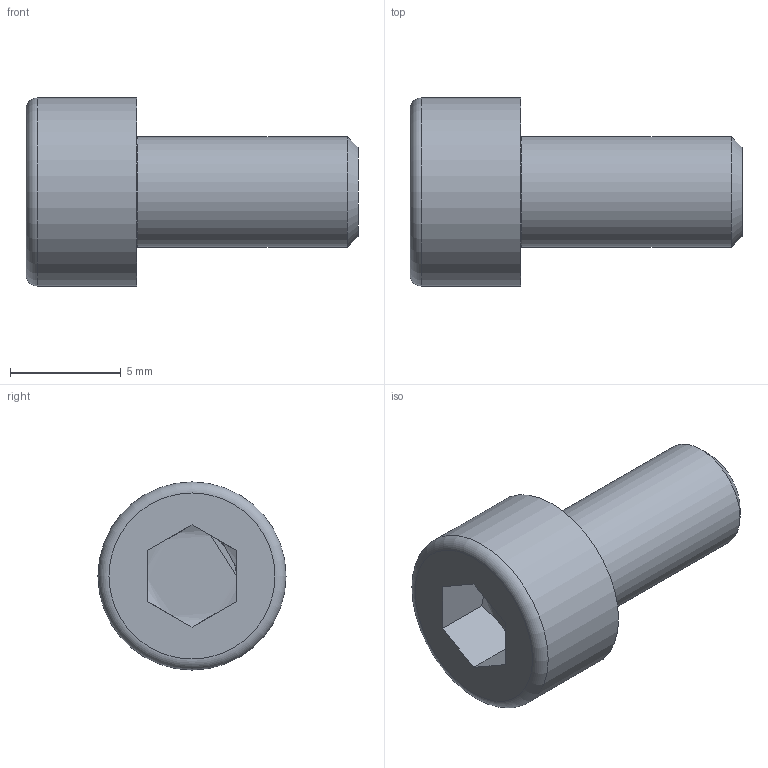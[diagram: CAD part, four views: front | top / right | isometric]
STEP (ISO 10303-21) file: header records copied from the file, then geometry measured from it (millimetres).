
FILE_DESCRIPTION(/* description */ ('6각머리 태핑 나사'),/* implementation_level */ '2;1');
FILE_NAME(/* name */ '',/* time_stamp */ '2024-09-10T16:20:16+09:00',/* author */ ('jhkim'),/* organization */ (''),/* preprocessor_version */ 'ST-DEVELOPER v20',/* originating_system */ 'Autodesk Inventor 2025',/* authorisation */ '');
FILE_SCHEMA (('AUTOMOTIVE_DESIGN { 1 0 10303 214 3 1 1 }'));
Length unit declared in the file: millimetre
Products named in the file (1): 육각 소켓 머리 볼트 
M5x10
Bounding box: 15 x 8.5 x 8.5 mm (x, y, z)
Volume: 435 mm3; surface area: 431.5 mm2
Topology: 1 solids, 1 shells, 15 faces, 36 edges, 24 vertices
Faces by surface type: plane 9, torus 2, cylinder 2, cone 2
Full cylindrical faces by diameter (mm): 5 x1, 8.5 x1
Entity records: 473 total; most frequent: CARTESIAN_POINT 89, DIRECTION 72, ORIENTED_EDGE 70, EDGE_CURVE 35, AXIS2_PLACEMENT_3D 28, VERTEX_POINT 24, EDGE_LOOP 17, LINE 16
